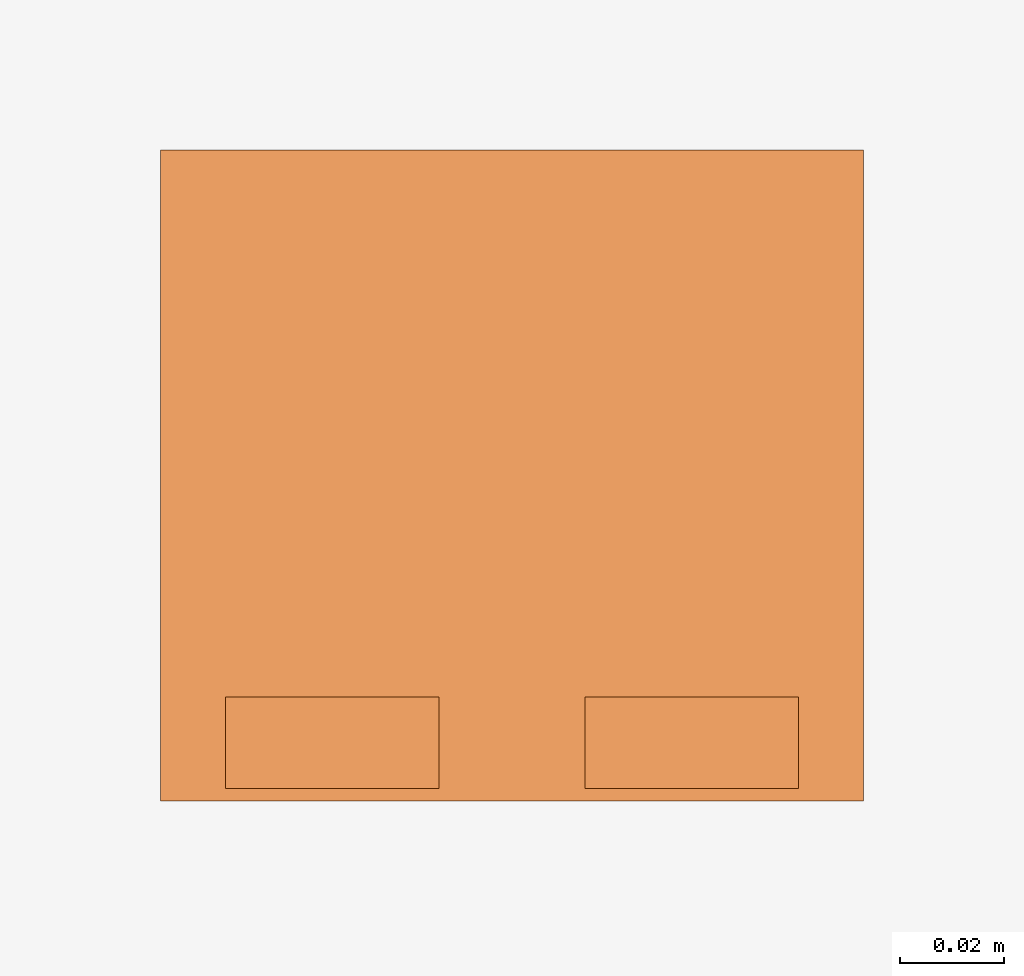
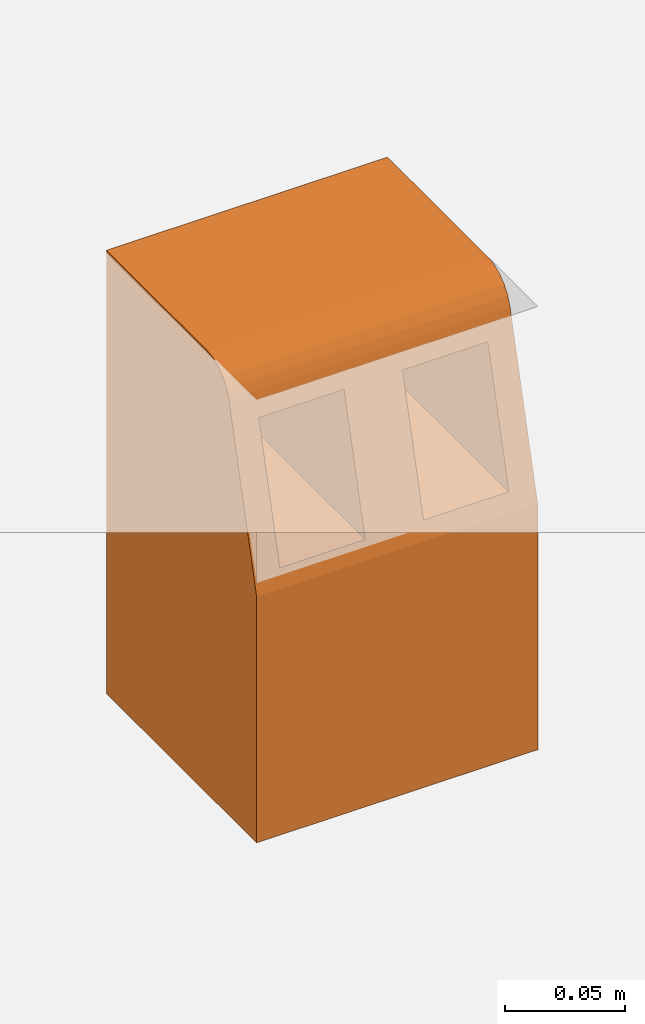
# One storey, part 2 of 2: 1 proxy.
"""IFC2X3 building model written with IfcOpenShell, lengths in millimetres."""

from ifc_helpers import new_model, entity, si_unit, converted_unit, direction, frame, origin, place, context, subcontext, project, spatial, faceted_brep, source, transform, mapped, material, element, save


model = new_model("IFC2X3")

# Units and contexts
model_context = context("Model", 3, precision=1e-06, world=origin(), true_north=direction((2.0, 6.12303176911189e-17, 1.0)))
context_of_model = context(None, 3, precision=1e-06, world=origin(), true_north=direction((2.0, 6.12303176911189e-17, 1.0)))
body_context = subcontext(model_context, "Body", "Model", "MODEL_VIEW")
ifc_project = project(units=[si_unit("LENGTHUNIT", "METRE", prefix="MILLI"), si_unit("AREAUNIT", "SQUARE_METRE", prefix="MILLI"), si_unit("VOLUMEUNIT", "CUBIC_METRE", prefix="MILLI"), converted_unit("PLANEANGLEUNIT", "DEGREE", entity("IfcRatioMeasure", 0.0174532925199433), si_unit("PLANEANGLEUNIT", "RADIAN"), dimensions=[0, 0, 0, 0, 0, 0, 0]), si_unit("TIMEUNIT", "SECOND")], contexts=[model_context, context_of_model])

# Site, building, storey
site_placement = place(None, origin())
site = spatial("IfcSite", under=ifc_project, at=site_placement, Name="Default", CompositionType="ELEMENT")
building_placement = place(site_placement, origin())
building = spatial("IfcBuilding", under=site, at=building_placement, CompositionType="ELEMENT")
storey_placement = place(building_placement, origin())
storey = spatial("IfcBuildingStorey", under=building, at=storey_placement, Name="Level 1", CompositionType="ELEMENT", Elevation=0.0)

# Proxy
ifc_material = material(Name="Grey Polymer Concrete")
shared_shape = source(origin(), body_context, "Body", "Brep", [
    faceted_brep([(14.0, 113.0, -25.6375000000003), (14.0, 113.0, -91.1815000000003), (55.0, 113.0, -91.1815000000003), (55.0, 113.0, -25.6375000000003), (-67.5, 27.9391031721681, -5.56497115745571), (-67.5, 41.3741320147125, 0.0), (-67.5, 24.9196493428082, -9.50000000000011), (-67.5, 31.8741320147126, -2.5455173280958), (-67.5, 36.4565701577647, -0.647409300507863), (-67.5, 125.0, 0.0), (-67.5, 23.0215413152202, -14.0824381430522), (-67.5, 125.0, -225.0), (-67.5, 0.0, -100.0), (-67.5, 0.0, -225.0), (67.5, 24.9196493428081, -9.50000000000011), (67.5, 23.02154131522, -14.0824381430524), (67.5, 41.3741320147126, 0.0), (67.5, 31.8741320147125, -2.5455173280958), (67.5, 125.0, -225.0), (67.5, 125.0, 0.0), (67.5, 0.0, -100.0), (67.5, 0.0, -225.0), (67.5, 27.9391031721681, -5.56497115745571), (67.5, 36.4565701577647, -0.647409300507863), (14.0, 19.9253718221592, -25.6375000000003), (55.0, 19.9253718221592, -25.6375000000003), (-14.0, 19.9253718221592, -25.6375000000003), (55.0, 2.36290995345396, -91.1815000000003), (14.0, 2.36290995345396, -91.1815000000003), (-14.0, 2.36290995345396, -91.1815000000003), (-55.0, 19.9253718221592, -25.6375000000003), (-55.0, 2.36290995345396, -91.1815000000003), (-55.0, 113.0, -25.6375000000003), (-55.0, 113.0, -91.1815000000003), (-14.0, 113.0, -91.1815000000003), (-14.0, 113.0, -25.6375000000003)], [[[0, 1, 2, 3]], [[4, 5, 6]], [[4, 7, 8, 5]], [[5, 9, 10, 6]], [[9, 11, 12, 10]], [[12, 11, 13]], [[14, 15, 16, 17]], [[18, 19, 20, 21]], [[15, 20, 19, 16]], [[17, 22, 14]], [[17, 16, 23]], [[19, 18, 11, 9]], [[5, 16, 19, 9]], [[16, 5, 8, 23]], [[23, 8, 7, 17]], [[17, 7, 4, 22]], [[22, 4, 6, 14]], [[14, 6, 10, 15]], [[24, 25, 15, 26]], [[20, 15, 25, 27]], [[20, 27, 28, 29]], [[29, 28, 24, 26]], [[10, 30, 26, 15]], [[30, 10, 12, 31]], [[29, 31, 12, 20]], [[21, 20, 12, 13]], [[11, 18, 21, 13]], [[32, 33, 34, 35]], [[33, 32, 30, 31]], [[32, 35, 26, 30]], [[26, 35, 34, 29]], [[29, 34, 33, 31]], [[27, 2, 1, 28]], [[1, 0, 24, 28]], [[0, 3, 25, 24]], [[25, 3, 2, 27]]]),
])
proxy_placement = place(storey_placement, frame((-2103.18060311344, 3055.13485353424, 0.0)))
element("IfcBuildingElementProxy", 1, at=proxy_placement, inside=storey, material=ifc_material, Name="Civil-Drainage-Channel-ACO-MultiDrain-M100D-Channel-System:23452 - CFD kerb Outlet Half Batter:23452 - CFD kerb Outlet Half Batter", ObjectType="23452 - CFD kerb Outlet Half Batter", CompositionType="ELEMENT", context=body_context, shape_type="MappedRepresentation", body=[
    mapped(shared_shape, transform((0.0, 0.0, 0.0), scale=1.0)),
])

save(model, "model.ifc")
